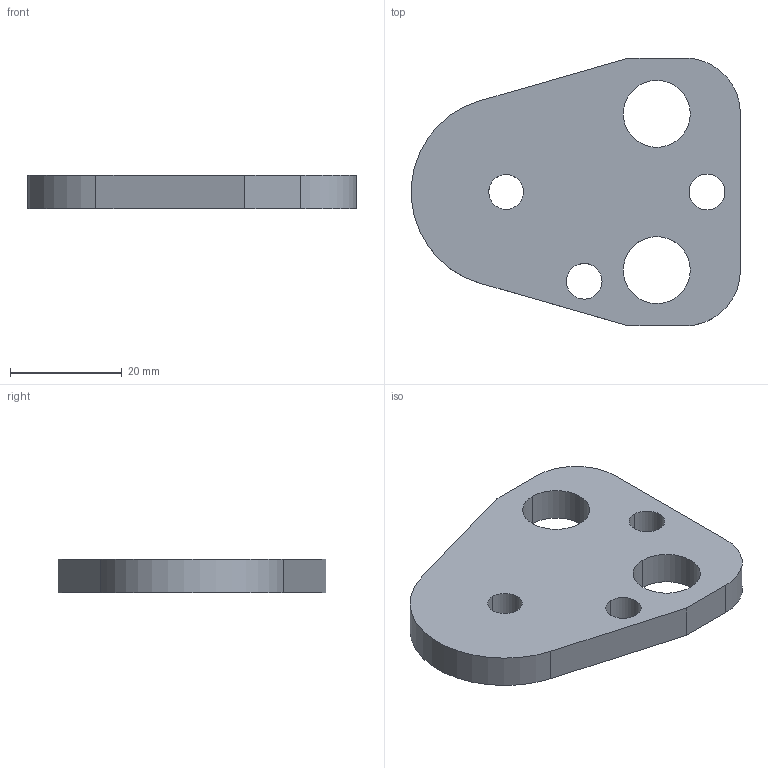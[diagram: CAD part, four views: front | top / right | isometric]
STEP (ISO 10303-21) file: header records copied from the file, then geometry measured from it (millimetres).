
FILE_DESCRIPTION(/* description */ (''),/* implementation_level */ '2;1');
FILE_NAME(/* name */ '3d_bpc20-6_03440_r00.stp',/* time_stamp */ '2011-01-10T14:17:10+09:00',/* author */ ('MISUMI'),/* organization */ (''),/* preprocessor_version */ 'ST-DEVELOPER v11',/* originating_system */ 'UGS - NX 5.0',/* authorisation */ '');
FILE_SCHEMA (('CONFIG_CONTROL_DESIGN'));
Length unit declared in the file: millimetre
Products named in the file (1): 3d_bpc20-6_03440_r00
Bounding box: 58.94 x 48 x 6 mm (x, y, z)
Volume: 11817.5 mm3; surface area: 5822.8 mm2
Topology: 1 solids, 1 shells, 20 faces, 54 edges, 36 vertices
Faces by surface type: cylinder 13, plane 7
Entity records: 750 total; most frequent: DIRECTION 122, CARTESIAN_POINT 111, ORIENTED_EDGE 108, EDGE_CURVE 54, AXIS2_PLACEMENT_3D 47, VERTEX_POINT 36, EDGE_LOOP 30, LINE 28
